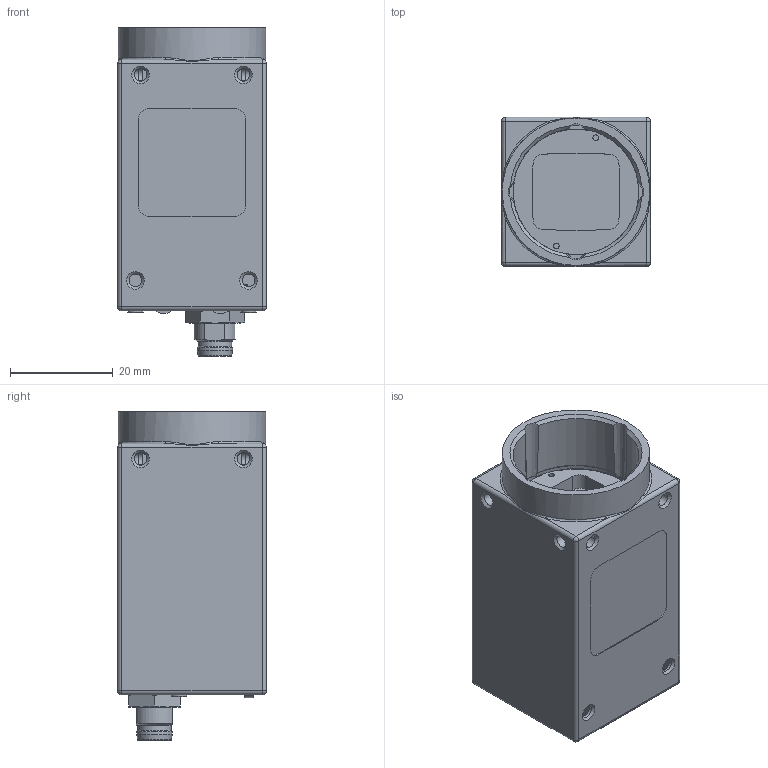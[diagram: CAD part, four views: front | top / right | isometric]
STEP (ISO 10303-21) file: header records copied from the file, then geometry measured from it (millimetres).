
FILE_DESCRIPTION(/* description */ ('Unknown'),/* implementation_level */ '2;1');
FILE_NAME(/* name */ 'VCXG-241M',/* time_stamp */ '2021-03-01T12:27:45+01:00',/* author */ ('Unknown'),/* organization */ ('Baumer'),/* preprocessor_version */ 'ST-DEVELOPER v16.7',/* originating_system */ 'Solid Edge',/* authorisation */ 'Unknown');
FILE_SCHEMA (('AUTOMOTIVE_DESIGN {1 0 10303 214 3 1 1}'));
Products named in the file (1): Part2
Bounding box: 29 x 29 x 64 mm (x, y, z)
Volume: 13572.8 mm3; surface area: 22620 mm2
Topology: 3 solids, 7 shells, 2036 faces, 5332 edges, 3536 vertices
Faces by surface type: plane 1227, cylinder 638, cone 100, torus 30, bspline 23, sphere 18
Full cylindrical faces by diameter (mm): 0.217 x1, 0.6 x242, 1.075 x2, 1.1 x2, 1.4 x4, 1.567 x2, 1.6 x2, 1.9 x4, 2.459 x10, 3 x4, 6.5 x1, 6.9 x1, 8.4 x1, 9 x1, 9.4 x1, 26 x1, 28.7 x1
Entity records: 73498 total; most frequent: CARTESIAN_POINT 11672, DIRECTION 9839, ORIENTED_EDGE 9334, EDGE_CURVE 4667, AXIS2_PLACEMENT_3D 3512, VERTEX_POINT 3237, LINE 2815, VECTOR 2815
